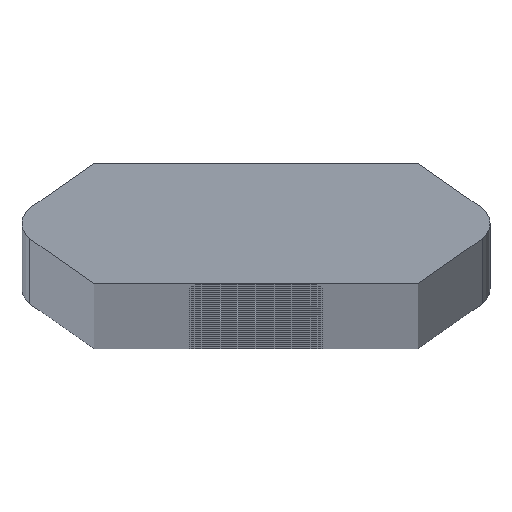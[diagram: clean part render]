
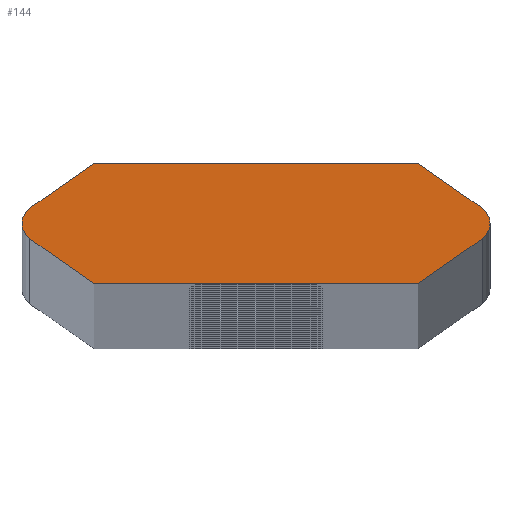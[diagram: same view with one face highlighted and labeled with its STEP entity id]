
A CAD part, top view. The second image highlights one B-rep face of the part: STEP entity #144.
In plain terms, the highlighted planar face has unit normal (0, 0, 1).
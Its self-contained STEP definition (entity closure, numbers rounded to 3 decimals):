
#144=ADVANCED_FACE('',(#292),#293,.T.);
#292=FACE_OUTER_BOUND('',#514,.T.);
#293=PLANE('',#515);
#514=EDGE_LOOP('',(#1081,#1082,#1083,#1084,#1085,#1086,#1087,#1088,#1089,#1090));
#515=AXIS2_PLACEMENT_3D('',#1091,#1092,#1093);
#1081=ORIENTED_EDGE('',*,*,#1293,.T.);
#1082=ORIENTED_EDGE('',*,*,#1496,.T.);
#1083=ORIENTED_EDGE('',*,*,#1497,.F.);
#1084=ORIENTED_EDGE('',*,*,#1498,.F.);
#1085=ORIENTED_EDGE('',*,*,#1499,.F.);
#1086=ORIENTED_EDGE('',*,*,#1289,.T.);
#1087=ORIENTED_EDGE('',*,*,#1500,.T.);
#1088=ORIENTED_EDGE('',*,*,#1501,.F.);
#1089=ORIENTED_EDGE('',*,*,#1502,.F.);
#1090=ORIENTED_EDGE('',*,*,#1503,.F.);
#1091=CARTESIAN_POINT('',(0.0,0.,986.0));
#1092=DIRECTION('',(0.0,0.0,1.0));
#1093=DIRECTION('',(1.0,0.0,0.0));
#1289=EDGE_CURVE('',#1519,#1516,#1520,.T.);
#1293=EDGE_CURVE('',#1527,#1524,#1528,.T.);
#1496=EDGE_CURVE('',#1524,#1864,#1866,.T.);
#1497=EDGE_CURVE('',#1867,#1864,#1868,.T.);
#1498=EDGE_CURVE('',#1869,#1867,#1870,.T.);
#1499=EDGE_CURVE('',#1519,#1869,#1871,.T.);
#1500=EDGE_CURVE('',#1516,#1872,#1873,.T.);
#1501=EDGE_CURVE('',#1874,#1872,#1875,.T.);
#1502=EDGE_CURVE('',#1876,#1874,#1877,.T.);
#1503=EDGE_CURVE('',#1527,#1876,#1878,.T.);
#1516=VERTEX_POINT('',#1896);
#1519=VERTEX_POINT('',#1900);
#1520=CIRCLE('',#1901,0.5);
#1524=VERTEX_POINT('',#1906);
#1527=VERTEX_POINT('',#1910);
#1528=CIRCLE('',#1911,0.5);
#1864=VERTEX_POINT('',#2314);
#1866=CIRCLE('',#2317,0.5);
#1867=VERTEX_POINT('',#2318);
#1868=LINE('',#2319,#2320);
#1869=VERTEX_POINT('',#2321);
#1870=LINE('',#2322,#2323);
#1871=LINE('',#2324,#2325);
#1872=VERTEX_POINT('',#2326);
#1873=CIRCLE('',#2327,0.5);
#1874=VERTEX_POINT('',#2328);
#1875=LINE('',#2329,#2330);
#1876=VERTEX_POINT('',#2331);
#1877=LINE('',#2332,#2333);
#1878=LINE('',#2334,#2335);
#1896=CARTESIAN_POINT('',(6.193,0.,986.0));
#1900=CARTESIAN_POINT('',(5.983,-0.407,986.0));
#1901=AXIS2_PLACEMENT_3D('',#2365,#2366,#2367);
#1906=CARTESIAN_POINT('',(-6.193,0.,986.0));
#1910=CARTESIAN_POINT('',(-5.983,0.407,986.0));
#1911=AXIS2_PLACEMENT_3D('',#2373,#2374,#2375);
#2314=CARTESIAN_POINT('',(-5.983,-0.407,986.0));
#2317=AXIS2_PLACEMENT_3D('',#2846,#2847,#2848);
#2318=CARTESIAN_POINT('',(-4.28,-1.6,986.0));
#2319=CARTESIAN_POINT('',(-6.565,0.,986.0));
#2320=VECTOR('',#2849,1.0);
#2321=CARTESIAN_POINT('',(4.28,-1.6,986.0));
#2322=CARTESIAN_POINT('',(4.28,-1.6,986.0));
#2323=VECTOR('',#2850,1.0);
#2324=CARTESIAN_POINT('',(6.565,0.0,986.0));
#2325=VECTOR('',#2851,1.0);
#2326=CARTESIAN_POINT('',(5.983,0.407,986.0));
#2327=AXIS2_PLACEMENT_3D('',#2852,#2853,#2854);
#2328=CARTESIAN_POINT('',(4.28,1.6,986.0));
#2329=CARTESIAN_POINT('',(6.565,0.0,986.0));
#2330=VECTOR('',#2855,1.0);
#2331=CARTESIAN_POINT('',(-4.28,1.6,986.0));
#2332=CARTESIAN_POINT('',(-4.28,1.6,986.0));
#2333=VECTOR('',#2856,1.0);
#2334=CARTESIAN_POINT('',(-6.565,0.,986.0));
#2335=VECTOR('',#2857,1.0);
#2365=CARTESIAN_POINT('',(5.693,0.0,986.0));
#2366=DIRECTION('',(0.0,0.0,1.0));
#2367=DIRECTION('',(1.0,0.0,0.0));
#2373=CARTESIAN_POINT('',(-5.693,0.,986.0));
#2374=DIRECTION('',(0.0,0.0,1.0));
#2375=DIRECTION('',(-1.0,0.,0.0));
#2846=CARTESIAN_POINT('',(-5.693,0.,986.0));
#2847=DIRECTION('',(0.0,0.0,1.0));
#2848=DIRECTION('',(-1.0,0.,0.0));
#2849=DIRECTION('',(-0.819,0.574,0.0));
#2850=DIRECTION('',(-1.0,0.0,0.0));
#2851=DIRECTION('',(-0.819,-0.574,0.0));
#2852=CARTESIAN_POINT('',(5.693,0.0,986.0));
#2853=DIRECTION('',(0.0,0.0,1.0));
#2854=DIRECTION('',(1.0,0.0,0.0));
#2855=DIRECTION('',(0.819,-0.574,0.0));
#2856=DIRECTION('',(1.0,0.,0.0));
#2857=DIRECTION('',(0.819,0.574,0.0));
